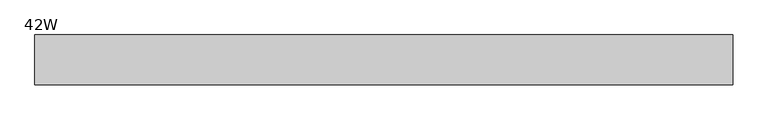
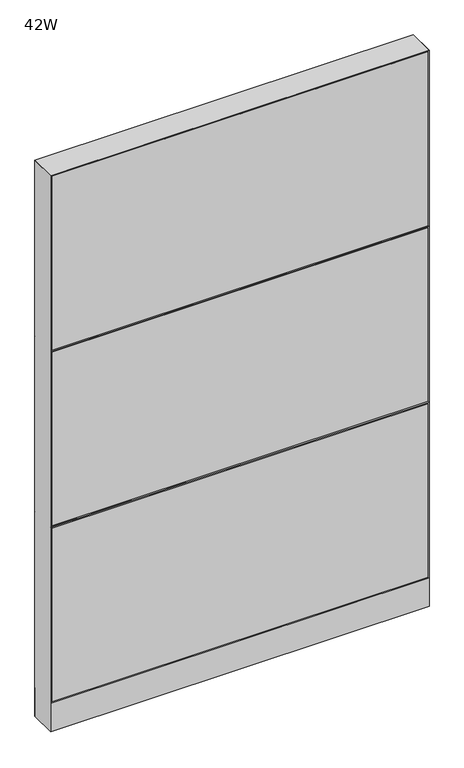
"""IFC4 building model written with IfcOpenShell, lengths in millimetres: furniture geometry, Steelcase - Montage - Frame - 65H - Enhanced Monolithic - Base Cavity : 42W."""

from ifc_helpers import new_model, si_unit, point, frame, frame_2d, origin, origin_with_axes, place, context, project, spatial, polyline, circle_curve, trimmed, segment, composite_curve, outline, extrude, faceted_brep, source, transform, mapped, element, save


def furniture_42w_9d11b314(model_context):
    return source(origin(), model_context, "Body", "SolidModel", [
        extrude(outline(polyline([(3.175, 31.7500194), (3.175, 38.1000194), (1063.625, 38.1000194), (1063.625, 31.7500194), (3.175, 31.7500194)])), frame((0.0, 0.0, 92.075), z_axis=(0.0, 0.0, 1.0), x_axis=(1.0, 0.0, 0.0)), (0.0, 0.0, 1.0), 517.525),
        faceted_brep([(-5.4e-06, 38.102627, 612.7749973), (6.3499917, 31.7526299, 606.4250003), (6.3499917, 31.7526299, 619.1249997), (1060.4500047, 31.7526299, 619.1249997), (1060.4500047, 31.7526299, 606.4250003), (1066.8, 38.1026253, 612.7749956)], [[[0, 1, 2]], [[3, 4, 5]], [[0, 2, 3, 5]], [[5, 4, 1, 0]], [[2, 1, 4, 3]]]),
        faceted_brep([(-5.4e-06, 38.102627, 1136.6499973), (6.3499917, 31.7526299, 1130.3000003), (6.3499917, 31.7526299, 1142.9999997), (1060.4500047, 31.7526299, 1142.9999997), (1060.4500047, 31.7526299, 1130.3000003), (1066.8, 38.1026253, 1136.6499956)], [[[0, 1, 2]], [[3, 4, 5]], [[0, 2, 3, 5]], [[5, 4, 1, 0]], [[2, 1, 4, 3]]]),
        extrude(outline(polyline([(3.175, 31.7500194), (3.175, 38.1000194), (1063.625, 38.1000194), (1063.625, 31.7500194), (3.175, 31.7500194)])), frame((0.0, 0.0, 615.95), z_axis=(0.0, 0.0, 1.0), x_axis=(1.0, 0.0, 0.0)), (0.0, 0.0, 1.0), 517.525),
        extrude(outline(polyline([(3.175, 31.7500194), (3.175, 38.1000194), (1063.625, 38.1000194), (1063.625, 31.7500194), (3.175, 31.7500194)])), frame((0.0, 0.0, 1139.825), z_axis=(0.0, 0.0, 1.0), x_axis=(1.0, 0.0, 0.0)), (0.0, 0.0, 1.0), 517.525),
        extrude(outline(polyline([(3.175, -31.7500194), (1063.625, -31.7500194), (1063.625, -38.1000194), (3.175, -38.1000194), (3.175, -31.7500194)])), frame((0.0, 0.0, 92.075), z_axis=(0.0, 0.0, 1.0), x_axis=(1.0, 0.0, 0.0)), (0.0, 0.0, 1.0), 517.525),
        faceted_brep([(-5.4e-06, -38.102627, 612.7750027), (6.3499917, -31.7526299, 619.1249997), (6.3499917, -31.7526299, 606.4250003), (1060.4500047, -31.7526299, 619.1249997), (1066.8, -38.1026253, 612.7750044), (1060.4500047, -31.7526299, 606.4250003)], [[[0, 1, 2]], [[3, 4, 5]], [[0, 4, 3, 1]], [[4, 0, 2, 5]], [[1, 3, 5, 2]]]),
        faceted_brep([(-5.4e-06, -38.102627, 1136.6500027), (6.3499917, -31.7526299, 1142.9999997), (6.3499917, -31.7526299, 1130.3000003), (1060.4500047, -31.7526299, 1142.9999997), (1066.8, -38.1026253, 1136.6500044), (1060.4500047, -31.7526299, 1130.3000003)], [[[0, 1, 2]], [[3, 4, 5]], [[0, 4, 3, 1]], [[4, 0, 2, 5]], [[1, 3, 5, 2]]]),
        extrude(outline(polyline([(3.175, -31.7500194), (1063.625, -31.7500194), (1063.625, -38.1000194), (3.175, -38.1000194), (3.175, -31.7500194)])), frame((0.0, 0.0, 615.95), z_axis=(0.0, 0.0, 1.0), x_axis=(1.0, 0.0, 0.0)), (0.0, 0.0, 1.0), 517.525),
        extrude(outline(polyline([(3.175, -31.7500194), (1063.625, -31.7500194), (1063.625, -38.1000194), (3.175, -38.1000194), (3.175, -31.7500194)])), frame((0.0, 0.0, 1139.825), z_axis=(0.0, 0.0, 1.0), x_axis=(1.0, 0.0, 0.0)), (0.0, 0.0, 1.0), 517.525),
        extrude(outline(polyline([(6.350003, -31.7499985), (1060.449997, -31.7499985), (1066.8, -38.1000015), (0.0, -38.1000015), (6.350003, -31.7499985)])), frame((0.0, 0.0, 4.064), z_axis=(0.0, 0.0, 1.0), x_axis=(1.0, 0.0, 0.0)), (0.0, 0.0, 1.0), 84.835997),
        extrude(outline(polyline([(6.3500002, 31.7500017), (0.0, 38.1000015), (1066.8, 38.1000015), (1060.4500002, 31.7500017), (6.3500002, 31.7500017)])), frame((0.0, 0.0, 4.064), z_axis=(0.0, 0.0, 1.0), x_axis=(1.0, 0.0, 0.0)), (0.0, 0.0, 1.0), 84.835997),
        faceted_brep([(1066.8, -38.1000015, 1660.525), (0.0, -38.1000015, 1660.525), (6.3500484, -31.749953, 1654.1749516), (1060.4499516, -31.749953, 1654.1749516), (6.3500484, 31.749953, 1654.1749516), (1060.4499516, 31.749953, 1654.1749516), (0.0, 38.1000015, 1660.525), (1066.8, 38.1000015, 1660.525)], [[[0, 1, 2, 3]], [[3, 2, 4, 5]], [[6, 7, 5, 4]], [[1, 0, 7, 6]], [[2, 1, 6, 4]], [[0, 3, 5, 7]]]),
        extrude(outline(composite_curve([segment(trimmed(circle_curve(frame_2d((44.45, 0.0)), 15.24), [point((29.21, 0.0))], [point((59.69, 0.0))], False, "CARTESIAN"), True, "CONTINUOUS"), segment(trimmed(circle_curve(frame_2d((44.45, 0.0)), 15.24), [point((59.69, 0.0))], [point((29.21, 0.0))], False, "CARTESIAN"), True, "CONTINUOUS")], self_intersect=False)), origin_with_axes(), (0.0, 0.0, 1.0), 4.064),
        extrude(outline(composite_curve([segment(trimmed(circle_curve(frame_2d((1022.35, 0.0)), 15.24), [point((1007.11, 0.0))], [point((1037.59, 0.0))], False, "CARTESIAN"), True, "CONTINUOUS"), segment(trimmed(circle_curve(frame_2d((1022.35, 0.0)), 15.24), [point((1037.59, 0.0))], [point((1007.11, 0.0))], False, "CARTESIAN"), True, "CONTINUOUS")], self_intersect=False)), origin_with_axes(), (0.0, 0.0, 1.0), 4.064),
        faceted_brep([(1066.8, -38.1000106, 4.064), (1066.8, 38.1000015, 4.064), (1066.8, 38.1000015, 1660.525), (1066.8, -38.1000106, 1660.5249637), (0.0, 38.1000015, 4.064), (0.0, -38.1000015, 4.064), (0.0, -38.1000015, 1660.525), (0.0, 38.1000015, 1660.525), (1060.4499879, 31.7500017, 606.425), (6.35, 31.7500017, 606.425), (6.3499998, 31.7500017, 619.125), (1060.4499879, 31.7500017, 619.125), (6.35, -31.7499985, 619.125), (1060.4499879, -31.7499985, 619.125), (6.350003, -31.7499985, 606.425), (1060.4499879, -31.7499985, 606.425), (1060.4499879, 31.7500017, 1130.3), (6.35, 31.7500017, 1130.3), (6.3499998, 31.7500017, 1143.0), (1060.4499879, 31.7500017, 1143.0), (6.35, -31.7499985, 1143.0), (1060.4499879, -31.7499985, 1143.0), (6.350003, -31.7499985, 1130.3), (1060.4499879, -31.7499985, 1130.3), (6.35, 31.7500015, 4.064), (6.35, -31.7500015, 4.064), (1060.4499879, 31.7499894, 4.064), (1060.4499879, -31.7499985, 4.064), (6.35, 31.7500015, 1654.175), (6.35, -31.7500015, 1654.175), (1060.4499879, -31.7499985, 1654.1749516), (1060.4499879, 31.7499895, 1654.1749516)], [[[0, 1, 2, 3]], [[4, 5, 6, 7]], [[8, 9, 10, 11]], [[11, 10, 12, 13]], [[13, 12, 14, 15]], [[9, 8, 15, 14]], [[16, 17, 18, 19]], [[19, 18, 20, 21]], [[21, 20, 22, 23]], [[17, 16, 23, 22]], [[24, 25, 5, 4]], [[26, 1, 0, 27]], [[24, 4, 7, 28, 18, 17, 10, 9]], [[5, 25, 14, 12, 22, 20, 29, 6]], [[20, 18, 28, 29]], [[25, 24, 9, 14]], [[10, 17, 22, 12]], [[19, 21, 30, 31]], [[26, 27, 15, 8]], [[16, 11, 13, 23]], [[27, 0, 3, 30, 21, 23, 13, 15]], [[1, 26, 8, 11, 16, 19, 31, 2]], [[7, 6, 29, 28]], [[3, 2, 31, 30]]]),
    ])


if __name__ == "__main__":
    model = new_model("IFC4")
    model_context = context("Model", 3, world=origin())
    ifc_project = project(units=[si_unit("LENGTHUNIT", "METRE", prefix="MILLI")], contexts=[model_context])
    site = spatial("IfcSite", under=ifc_project)
    building = spatial("IfcBuilding", under=site)
    placement = place(None, origin())
    furniture_42w_shape = furniture_42w_9d11b314(model_context)
    element("IfcFurniture", 1, ObjectType="Steelcase - Montage - Frame - 65H - Enhanced Monolithic - Base Cavity : 42W", at=placement, inside=building, context=model_context, shape_type="MappedRepresentation", body=[
        mapped(furniture_42w_shape, transform((0.0, 0.0, 0.0), x_axis=(1.0, 0.0, 0.0), y_axis=(0.0, 1.0, 0.0), z_axis=(0.0, 0.0, 1.0))),
    ])
    save(model, "model.ifc")
